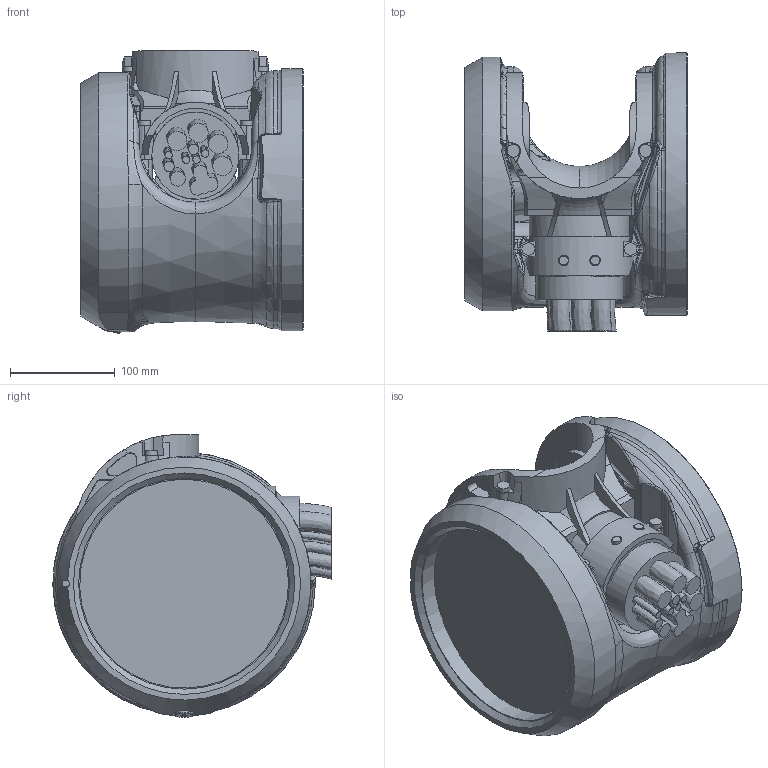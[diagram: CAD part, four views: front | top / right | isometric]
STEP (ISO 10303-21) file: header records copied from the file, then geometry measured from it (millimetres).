
FILE_DESCRIPTION (( 'STEP AP214' ), '1' );
FILE_NAME ('IRB7720_All-310_OC_00_LINK06_CABLE.step', '2026-01-28T12:47:31', ( '' ), ( '' ), 'SwSTEP 2.0', 'SolidWorks 2024', '' );
FILE_SCHEMA (( 'AUTOMOTIVE_DESIGN' ));
Length unit declared in the file: millimetre
Products named in the file (1): IRB7720_All-310_OC_00_LINK06_CABLE
Bounding box: 212.5 x 265.09 x 269.35 mm (x, y, z)
Volume: 5661901.8 mm3; surface area: 446674.7 mm2
Topology: 1 solids, 1 shells, 759 faces, 1940 edges, 1202 vertices
Faces by surface type: bspline 238, plane 196, cylinder 173, torus 74, cone 72, sphere 6
Full cylindrical faces by diameter (mm): 4.8 x1, 8.5 x2, 10 x2, 12 x5, 14 x12, 17.9 x1, 18 x1, 24 x1, 73 x3, 83 x1, 199 x1, 250 x1
Entity records: 42054 total; most frequent: CARTESIAN_POINT 17756, ORIENTED_EDGE 3714, DIRECTION 2771, EDGE_CURVE 1857, VERTEX_POINT 1182, AXIS2_PLACEMENT_3D 1160, EDGE_LOOP 857, FACE_OUTER_BOUND 802
